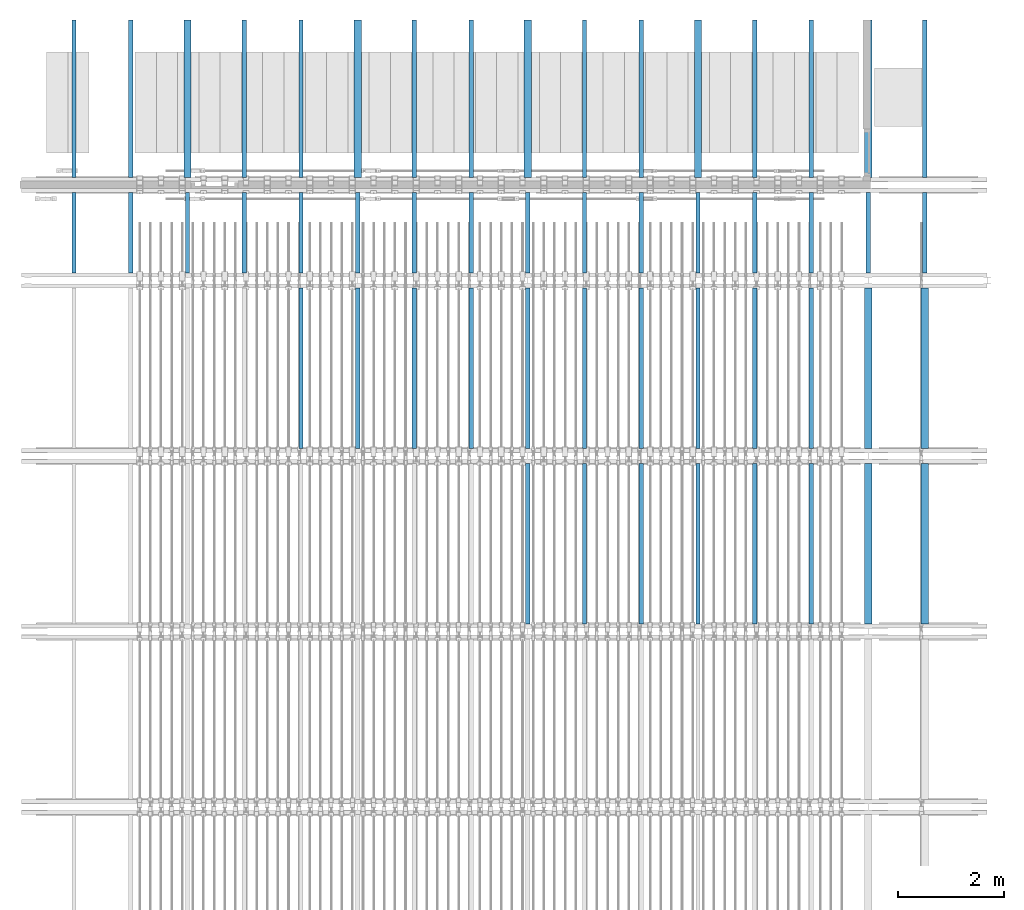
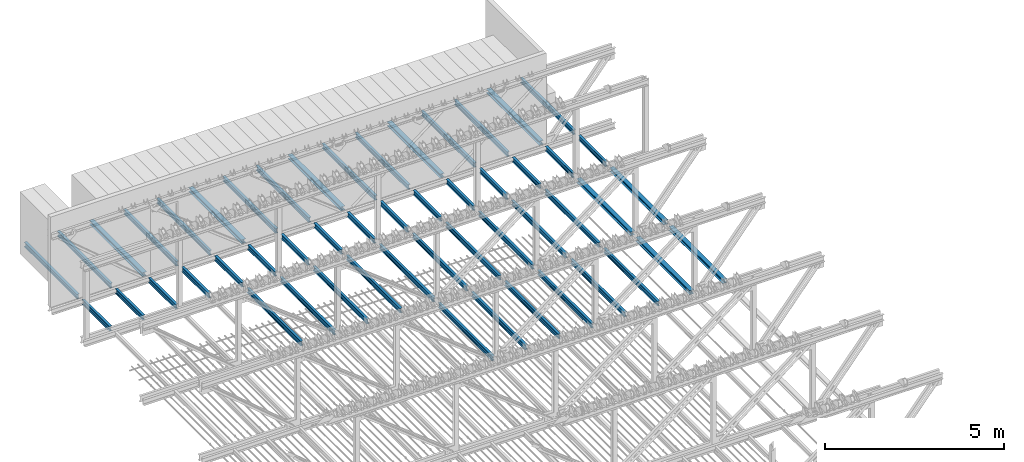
# One storey, part 3 of 8: 52 beams.
"""IFC2X3 building model written with IfcOpenShell, lengths in millimetres."""

from ifc_helpers import new_model, entity, si_unit, converted_unit, direction, frame, frame_2d, origin, place, context, subcontext, project, spatial, i_section, extrude, material, type_object, element, save


model = new_model("IFC2X3")

# Units and contexts
model_context = context("Model", 3, precision=0.01, world=origin(), true_north=direction((6.123233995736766e-17, 1.0)))
body_context = subcontext(model_context, "Body", "Model", "MODEL_VIEW")
ifc_project = project(units=[si_unit("LENGTHUNIT", "METRE", prefix="MILLI"), si_unit("AREAUNIT", "SQUARE_METRE"), converted_unit("PLANEANGLEUNIT", "DEGREE", entity("IfcPlaneAngleMeasure", 0.017453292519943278), si_unit("PLANEANGLEUNIT", "RADIAN"), dimensions=[0, 0, 0, 0, 0, 0, 0])], contexts=[model_context])

# Site, building, storey
site_placement = place(None, origin())
site = spatial("IfcSite", under=ifc_project, at=site_placement, Name="Default", CompositionType="ELEMENT")
building_placement = place(site_placement, origin())
building = spatial("IfcBuilding", under=site, at=building_placement, CompositionType="ELEMENT")
storey_placement = place(building_placement, frame((0.0, 0.0, 30550.0)))
storey = spatial("IfcBuildingStorey", under=building, at=storey_placement, Name="Rollenzolder", CompositionType="ELEMENT", Elevation=30550.000000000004)

# Beams
ifc_material = material(Name="Staal PBTA")
beam_type_1 = type_object("IfcBeamType", Name="H-Balk:HEA140", PredefinedType="BEAM")
beam_1_placement = place(storey_placement, frame((9736.744931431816, 36371.16790690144, -30.0), z_axis=(0.0, 0.0, 1.0), x_axis=(0.0, 1.0, 0.0)))
element("IfcBeam", 1, at=beam_1_placement, inside=storey, type_object=beam_type_1, material=ifc_material, Name="H-Balk:HEA140", ObjectType="H-Balk:HEA140", context=body_context, shape_type="SweptSolid", body=[
    extrude(i_section(OverallWidth=140.00000000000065, OverallDepth=132.99999999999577, WebThickness=5.499999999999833, FlangeThickness=8.499999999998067, FilletRadius=12.000000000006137, at=frame_2d((0.0, 0.0), x_axis=(0.0, 1.0))), frame((0.0, 0.0, -66.5000000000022), z_axis=(1.0, 0.0, 0.0), x_axis=(0.0, 0.0, -1.0)), (0.0, 0.0, 1.0), 2960.0000000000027),
])
beam_2_placement = place(storey_placement, frame((12936.744931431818, 36371.167906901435, -30.0), z_axis=(0.0, 0.0, 1.0), x_axis=(0.0, 1.0, 0.0)))
element("IfcBeam", 2, at=beam_2_placement, inside=storey, type_object=beam_type_1, material=ifc_material, Name="H-Balk:HEA140", ObjectType="H-Balk:HEA140", context=body_context, shape_type="SweptSolid", body=[
    extrude(i_section(OverallWidth=139.9999999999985, OverallDepth=132.99999999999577, WebThickness=5.500000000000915, FlangeThickness=8.499999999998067, FilletRadius=12.000000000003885, at=frame_2d((0.0, 1.0800249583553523e-12), x_axis=(0.0, 1.0))), frame((0.0, 0.0, -66.5000000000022), z_axis=(1.0, 0.0, 0.0), x_axis=(0.0, 0.0, -1.0)), (0.0, 0.0, 1.0), 2960.0000000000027),
])
for number, where, z_axis, x_axis, name in (
    (3, (16136.744931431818, 36371.16790690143, -30.0), (0.0, 0.0, 1.0), (0.0, 1.0, 0.0), "H-Balk:HEA140"),
    (4, (19336.74493143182, 36371.16790690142, -30.0), (0.0, 0.0, 1.0), (0.0, 1.0, 0.0), "H-Balk:HEA140"),
):
    element("IfcBeam", number, at=place(storey_placement, frame(where, z_axis=z_axis, x_axis=x_axis)), inside=storey, type_object=beam_type_1, material=ifc_material, Name=name, ObjectType="H-Balk:HEA140", context=body_context, shape_type="SweptSolid", body=[
        extrude(i_section(OverallWidth=139.9999999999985, OverallDepth=132.99999999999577, WebThickness=5.500000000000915, FlangeThickness=8.499999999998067, FilletRadius=12.000000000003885, at=frame_2d((0.0, -1.0800249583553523e-12), x_axis=(0.0, 1.0))), frame((0.0, 0.0, -66.5000000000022), z_axis=(1.0, 0.0, 0.0), x_axis=(0.0, 0.0, -1.0)), (0.0, 0.0, 1.0), 2960.0000000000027),
    ])
beam_3_placement = place(storey_placement, frame((22536.744931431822, 36371.167906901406, -30.0), z_axis=(0.0, 0.0, 1.0), x_axis=(0.0, 1.0, 0.0)))
element("IfcBeam", 5, at=beam_3_placement, inside=storey, type_object=beam_type_1, material=ifc_material, Name="H-Balk:HEA140", ObjectType="H-Balk:HEA140", context=body_context, shape_type="SweptSolid", body=[
    extrude(i_section(OverallWidth=140.0000000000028, OverallDepth=132.99999999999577, WebThickness=5.4999999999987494, FlangeThickness=8.499999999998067, FilletRadius=12.000000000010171, at=frame_2d((0.0, -2.1600499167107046e-12), x_axis=(0.0, 1.0))), frame((0.0, 0.0, -66.5000000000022), z_axis=(1.0, 0.0, 0.0), x_axis=(0.0, 0.0, -1.0)), (0.0, 0.0, 1.0), 2960.0000000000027),
])
beam_4_placement = place(storey_placement, frame((23603.41159809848, 31272.667906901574, -30.0), z_axis=(0.0, 0.0, 1.0), x_axis=(0.0, 1.0, 0.0)))
element("IfcBeam", 6, at=beam_4_placement, inside=storey, type_object=beam_type_1, material=ifc_material, Name="H-Balk:HEA140", ObjectType="H-Balk:HEA140", context=body_context, shape_type="SweptSolid", body=[
    extrude(i_section(OverallWidth=140.0000000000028, OverallDepth=133.00000000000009, WebThickness=5.4999999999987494, FlangeThickness=8.5000000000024, FilletRadius=12.000000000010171, at=frame_2d((2.1600499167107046e-12, -2.1600499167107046e-12), x_axis=(0.0, 1.0))), frame((0.0, 0.0, -66.5000000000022), z_axis=(1.0, 0.0, 0.0), x_axis=(0.0, 0.0, -1.0)), (0.0, 0.0, 1.0), 3016.9999999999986),
])
beam_5_placement = place(storey_placement, frame((23603.411598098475, 27972.667906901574, -30.0), z_axis=(0.0, 0.0, 1.0), x_axis=(0.0, 1.0, 0.0)))
element("IfcBeam", 7, at=beam_5_placement, inside=storey, type_object=beam_type_1, material=ifc_material, Name="H-Balk:HEA140", ObjectType="H-Balk:HEA140", context=body_context, shape_type="SweptSolid", body=[
    extrude(i_section(OverallWidth=140.0000000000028, OverallDepth=133.00000000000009, WebThickness=5.4999999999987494, FlangeThickness=8.5000000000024, FilletRadius=12.000000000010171, at=frame_2d((2.1600499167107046e-12, 2.1600499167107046e-12), x_axis=(0.0, 1.0))), frame((0.0, 0.0, -66.5000000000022), z_axis=(1.0, 0.0, 0.0), x_axis=(0.0, 0.0, -1.0)), (0.0, 0.0, 1.0), 3016.9999999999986),
])
beam_6_placement = place(storey_placement, frame((22536.74493143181, 31272.667906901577, -30.0), z_axis=(0.0, 0.0, 1.0), x_axis=(0.0, 1.0, 0.0)))
element("IfcBeam", 8, at=beam_6_placement, inside=storey, type_object=beam_type_1, material=ifc_material, Name="H-Balk:HEA140", ObjectType="H-Balk:HEA140", context=body_context, shape_type="SweptSolid", body=[
    extrude(i_section(OverallWidth=140.0000000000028, OverallDepth=133.00000000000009, WebThickness=5.4999999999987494, FlangeThickness=8.5000000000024, FilletRadius=12.000000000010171, at=frame_2d((2.1600499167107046e-12, -6.494360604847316e-12), x_axis=(0.0, 1.0))), frame((0.0, 0.0, -66.5000000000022), z_axis=(1.0, 0.0, 0.0), x_axis=(0.0, 0.0, -1.0)), (0.0, 0.0, 1.0), 3016.9999999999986),
])
beam_7_placement = place(storey_placement, frame((22536.744931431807, 27972.667906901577, -30.0), z_axis=(0.0, 0.0, 1.0), x_axis=(0.0, 1.0, 0.0)))
element("IfcBeam", 9, at=beam_7_placement, inside=storey, type_object=beam_type_1, material=ifc_material, Name="H-Balk:HEA140", ObjectType="H-Balk:HEA140", context=body_context, shape_type="SweptSolid", body=[
    extrude(i_section(OverallWidth=140.0000000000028, OverallDepth=133.00000000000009, WebThickness=5.4999999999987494, FlangeThickness=8.5000000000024, FilletRadius=12.000000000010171, at=frame_2d((2.1600499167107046e-12, -2.1600499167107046e-12), x_axis=(0.0, 1.0))), frame((0.0, 0.0, -66.5000000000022), z_axis=(1.0, 0.0, 0.0), x_axis=(0.0, 0.0, -1.0)), (0.0, 0.0, 1.0), 3016.9999999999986),
])
beam_type_2 = type_object("IfcBeamType", Name="IPE-Balk:IPE160", PredefinedType="BEAM")
beam_8_placement = place(storey_placement, frame((10803.411598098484, 36372.667906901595, -30.0), z_axis=(0.0, 0.0, 1.0), x_axis=(0.0, 1.0, 0.0)))
element("IfcBeam", 10, at=beam_8_placement, inside=storey, type_object=beam_type_2, material=ifc_material, Name="IPE-Balk:IPE160", ObjectType="IPE-Balk:IPE160", context=body_context, shape_type="SweptSolid", body=[
    extrude(i_section(OverallWidth=82.00000000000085, OverallDepth=159.9999999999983, WebThickness=5.0000000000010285, FlangeThickness=7.399999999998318, FilletRadius=8.999999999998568, at=frame_2d((-4.32720526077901e-12, 1.0835776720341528e-12), x_axis=(0.0, 1.0))), frame((0.2499999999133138, 0.0, -80.0), z_axis=(1.0, 0.0, 0.0), x_axis=(0.0, 0.0, -1.0)), (0.0, 0.0, 1.0), 2957.999999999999),
])
beam_9_placement = place(storey_placement, frame((11870.07826476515, 36372.66790690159, -30.0), z_axis=(0.0, 0.0, 1.0), x_axis=(0.0, 1.0, 0.0)))
element("IfcBeam", 11, at=beam_9_placement, inside=storey, type_object=beam_type_2, material=ifc_material, Name="IPE-Balk:IPE160", ObjectType="IPE-Balk:IPE160", context=body_context, shape_type="SweptSolid", body=[
    extrude(i_section(OverallWidth=82.00000000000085, OverallDepth=159.9999999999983, WebThickness=5.0000000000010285, FlangeThickness=7.399999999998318, FilletRadius=8.999999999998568, at=frame_2d((-4.32720526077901e-12, 1.0835776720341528e-12), x_axis=(0.0, 1.0))), frame((0.24999999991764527, 0.0, -80.0), z_axis=(1.0, 0.0, 0.0), x_axis=(0.0, 0.0, -1.0)), (0.0, 0.0, 1.0), 2957.999999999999),
])
for number, where, z_axis, x_axis, name in (
    (12, (10803.411598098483, 34572.6679069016, -30.0), (0.0, 0.0, 1.0), (0.0, 1.0, 0.0), "IPE-Balk:IPE160"),
    (13, (11870.078264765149, 34572.6679069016, -30.0), (0.0, 0.0, 1.0), (0.0, 1.0, 0.0), "IPE-Balk:IPE160"),
):
    element("IfcBeam", number, at=place(storey_placement, frame(where, z_axis=z_axis, x_axis=x_axis)), inside=storey, type_object=beam_type_2, material=ifc_material, Name=name, ObjectType="IPE-Balk:IPE160", context=body_context, shape_type="SweptSolid", body=[
        extrude(i_section(OverallWidth=82.00000000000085, OverallDepth=159.9999999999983, WebThickness=5.0000000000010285, FlangeThickness=7.399999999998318, FilletRadius=8.999999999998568, at=frame_2d((-4.32720526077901e-12, -1.0835776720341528e-12), x_axis=(0.0, 1.0))), frame((0.0, 0.0, -80.0), z_axis=(1.0, 0.0, 0.0), x_axis=(0.0, 0.0, -1.0)), (0.0, 0.0, 1.0), 1517.0000000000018),
    ])
beam_10_placement = place(storey_placement, frame((11870.078264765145, 31272.667906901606, -30.0), z_axis=(0.0, 0.0, 1.0), x_axis=(0.0, 1.0, 0.0)))
element("IfcBeam", 14, at=beam_10_placement, inside=storey, type_object=beam_type_2, material=ifc_material, Name="IPE-Balk:IPE160", ObjectType="IPE-Balk:IPE160", context=body_context, shape_type="SweptSolid", body=[
    extrude(i_section(OverallWidth=82.00000000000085, OverallDepth=159.9999999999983, WebThickness=5.0000000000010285, FlangeThickness=7.399999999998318, FilletRadius=8.999999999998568, at=frame_2d((-4.32720526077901e-12, -1.0835776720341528e-12), x_axis=(0.0, 1.0))), frame((0.0, 0.0, -80.0), z_axis=(1.0, 0.0, 0.0), x_axis=(0.0, 0.0, -1.0)), (0.0, 0.0, 1.0), 3017.0000000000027),
])
beam_11_placement = place(storey_placement, frame((14003.411598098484, 36372.66790690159, -30.0), z_axis=(0.0, 0.0, 1.0), x_axis=(0.0, 1.0, 0.0)))
element("IfcBeam", 15, at=beam_11_placement, inside=storey, type_object=beam_type_2, material=ifc_material, Name="IPE-Balk:IPE160", ObjectType="IPE-Balk:IPE160", context=body_context, shape_type="SweptSolid", body=[
    extrude(i_section(OverallWidth=82.00000000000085, OverallDepth=159.9999999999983, WebThickness=5.0000000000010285, FlangeThickness=7.399999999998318, FilletRadius=8.999999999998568, at=frame_2d((-4.32720526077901e-12, -1.0835776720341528e-12), x_axis=(0.0, 1.0))), frame((0.24999999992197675, 0.0, -80.0), z_axis=(1.0, 0.0, 0.0), x_axis=(0.0, 0.0, -1.0)), (0.0, 0.0, 1.0), 2957.999999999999),
])
beam_12_placement = place(storey_placement, frame((15070.07826476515, 36372.66790690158, -30.0), z_axis=(0.0, 0.0, 1.0), x_axis=(0.0, 1.0, 0.0)))
element("IfcBeam", 16, at=beam_12_placement, inside=storey, type_object=beam_type_2, material=ifc_material, Name="IPE-Balk:IPE160", ObjectType="IPE-Balk:IPE160", context=body_context, shape_type="SweptSolid", body=[
    extrude(i_section(OverallWidth=82.00000000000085, OverallDepth=159.9999999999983, WebThickness=5.0000000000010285, FlangeThickness=7.399999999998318, FilletRadius=8.999999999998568, at=frame_2d((-4.32720526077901e-12, -1.0835776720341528e-12), x_axis=(0.0, 1.0))), frame((0.2499999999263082, 0.0, -80.0), z_axis=(1.0, 0.0, 0.0), x_axis=(0.0, 0.0, -1.0)), (0.0, 0.0, 1.0), 2957.999999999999),
])
for number, where, z_axis, x_axis, name in (
    (17, (14003.411598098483, 34572.667906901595, -30.0), (0.0, 0.0, 1.0), (0.0, 1.0, 0.0), "IPE-Balk:IPE160"),
    (18, (15070.078264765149, 34572.667906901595, -30.0), (0.0, 0.0, 1.0), (0.0, 1.0, 0.0), "IPE-Balk:IPE160"),
):
    element("IfcBeam", number, at=place(storey_placement, frame(where, z_axis=z_axis, x_axis=x_axis)), inside=storey, type_object=beam_type_2, material=ifc_material, Name=name, ObjectType="IPE-Balk:IPE160", context=body_context, shape_type="SweptSolid", body=[
        extrude(i_section(OverallWidth=82.00000000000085, OverallDepth=159.9999999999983, WebThickness=5.0000000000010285, FlangeThickness=7.399999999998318, FilletRadius=8.999999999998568, at=frame_2d((-4.32720526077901e-12, -1.0835776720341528e-12), x_axis=(0.0, 1.0))), frame((0.0, 0.0, -80.0), z_axis=(1.0, 0.0, 0.0), x_axis=(0.0, 0.0, -1.0)), (0.0, 0.0, 1.0), 1517.0000000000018),
    ])
beam_13_placement = place(storey_placement, frame((14003.411598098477, 31272.6679069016, -30.0), z_axis=(0.0, 0.0, 1.0), x_axis=(0.0, 1.0, 0.0)))
element("IfcBeam", 19, at=beam_13_placement, inside=storey, type_object=beam_type_2, material=ifc_material, Name="IPE-Balk:IPE160", ObjectType="IPE-Balk:IPE160", context=body_context, shape_type="SweptSolid", body=[
    extrude(i_section(OverallWidth=82.00000000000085, OverallDepth=159.9999999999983, WebThickness=5.0000000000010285, FlangeThickness=7.399999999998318, FilletRadius=8.999999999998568, at=frame_2d((-4.32720526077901e-12, -1.0835776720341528e-12), x_axis=(0.0, 1.0))), frame((0.0, 0.0, -80.0), z_axis=(1.0, 0.0, 0.0), x_axis=(0.0, 0.0, -1.0)), (0.0, 0.0, 1.0), 3016.9999999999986),
])
beam_14_placement = place(storey_placement, frame((15070.078264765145, 31272.6679069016, -30.0), z_axis=(0.0, 0.0, 1.0), x_axis=(0.0, 1.0, 0.0)))
element("IfcBeam", 20, at=beam_14_placement, inside=storey, type_object=beam_type_2, material=ifc_material, Name="IPE-Balk:IPE160", ObjectType="IPE-Balk:IPE160", context=body_context, shape_type="SweptSolid", body=[
    extrude(i_section(OverallWidth=82.00000000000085, OverallDepth=159.9999999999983, WebThickness=5.0000000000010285, FlangeThickness=7.399999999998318, FilletRadius=8.999999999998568, at=frame_2d((-4.32720526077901e-12, -1.0835776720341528e-12), x_axis=(0.0, 1.0))), frame((0.0, 0.0, -80.0), z_axis=(1.0, 0.0, 0.0), x_axis=(0.0, 0.0, -1.0)), (0.0, 0.0, 1.0), 3017.0000000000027),
])
beam_15_placement = place(storey_placement, frame((17203.411598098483, 36372.66790690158, -30.0), z_axis=(0.0, 0.0, 1.0), x_axis=(0.0, 1.0, 0.0)))
element("IfcBeam", 21, at=beam_15_placement, inside=storey, type_object=beam_type_2, material=ifc_material, Name="IPE-Balk:IPE160", ObjectType="IPE-Balk:IPE160", context=body_context, shape_type="SweptSolid", body=[
    extrude(i_section(OverallWidth=82.00000000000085, OverallDepth=159.9999999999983, WebThickness=5.0000000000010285, FlangeThickness=7.399999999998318, FilletRadius=8.999999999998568, at=frame_2d((-4.32720526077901e-12, -1.0835776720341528e-12), x_axis=(0.0, 1.0))), frame((0.24999999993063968, 0.0, -80.0), z_axis=(1.0, 0.0, 0.0), x_axis=(0.0, 0.0, -1.0)), (0.0, 0.0, 1.0), 2957.999999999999),
])
beam_16_placement = place(storey_placement, frame((18270.07826476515, 36372.66790690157, -30.0), z_axis=(0.0, 0.0, 1.0), x_axis=(0.0, 1.0, 0.0)))
element("IfcBeam", 22, at=beam_16_placement, inside=storey, type_object=beam_type_2, material=ifc_material, Name="IPE-Balk:IPE160", ObjectType="IPE-Balk:IPE160", context=body_context, shape_type="SweptSolid", body=[
    extrude(i_section(OverallWidth=82.00000000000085, OverallDepth=159.9999999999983, WebThickness=5.0000000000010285, FlangeThickness=7.399999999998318, FilletRadius=8.999999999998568, at=frame_2d((-4.32720526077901e-12, -1.0835776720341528e-12), x_axis=(0.0, 1.0))), frame((0.24999999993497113, 0.0, -80.0), z_axis=(1.0, 0.0, 0.0), x_axis=(0.0, 0.0, -1.0)), (0.0, 0.0, 1.0), 2957.999999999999),
])
for number, where, z_axis, x_axis, name in (
    (23, (17203.411598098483, 34572.66790690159, -30.0), (0.0, 0.0, 1.0), (0.0, 1.0, 0.0), "IPE-Balk:IPE160"),
    (24, (18270.07826476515, 34572.66790690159, -30.0), (0.0, 0.0, 1.0), (0.0, 1.0, 0.0), "IPE-Balk:IPE160"),
):
    element("IfcBeam", number, at=place(storey_placement, frame(where, z_axis=z_axis, x_axis=x_axis)), inside=storey, type_object=beam_type_2, material=ifc_material, Name=name, ObjectType="IPE-Balk:IPE160", context=body_context, shape_type="SweptSolid", body=[
        extrude(i_section(OverallWidth=82.00000000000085, OverallDepth=159.9999999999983, WebThickness=5.0000000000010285, FlangeThickness=7.399999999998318, FilletRadius=8.999999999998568, at=frame_2d((-4.32720526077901e-12, -1.0835776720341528e-12), x_axis=(0.0, 1.0))), frame((0.0, 0.0, -80.0), z_axis=(1.0, 0.0, 0.0), x_axis=(0.0, 0.0, -1.0)), (0.0, 0.0, 1.0), 1517.0000000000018),
    ])
beam_17_placement = place(storey_placement, frame((17203.41159809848, 31272.66790690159, -30.0), z_axis=(0.0, 0.0, 1.0), x_axis=(0.0, 1.0, 0.0)))
element("IfcBeam", 25, at=beam_17_placement, inside=storey, type_object=beam_type_2, material=ifc_material, Name="IPE-Balk:IPE160", ObjectType="IPE-Balk:IPE160", context=body_context, shape_type="SweptSolid", body=[
    extrude(i_section(OverallWidth=82.00000000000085, OverallDepth=159.9999999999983, WebThickness=5.0000000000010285, FlangeThickness=7.399999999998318, FilletRadius=8.999999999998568, at=frame_2d((-4.32720526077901e-12, -1.0835776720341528e-12), x_axis=(0.0, 1.0))), frame((0.0, 0.0, -80.0), z_axis=(1.0, 0.0, 0.0), x_axis=(0.0, 0.0, -1.0)), (0.0, 0.0, 1.0), 3016.9999999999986),
])
for number, where, z_axis, x_axis, name in (
    (26, (18270.078264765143, 31272.66790690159, -30.0), (0.0, 0.0, 1.0), (0.0, 1.0, 0.0), "IPE-Balk:IPE160"),
    (27, (17203.411598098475, 27972.66790690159, -30.0), (0.0, 0.0, 1.0), (0.0, 1.0, 0.0), "IPE-Balk:IPE160"),
    (28, (18270.07826476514, 27972.66790690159, -30.0), (0.0, 0.0, 1.0), (0.0, 1.0, 0.0), "IPE-Balk:IPE160"),
):
    element("IfcBeam", number, at=place(storey_placement, frame(where, z_axis=z_axis, x_axis=x_axis)), inside=storey, type_object=beam_type_2, material=ifc_material, Name=name, ObjectType="IPE-Balk:IPE160", context=body_context, shape_type="SweptSolid", body=[
        extrude(i_section(OverallWidth=82.00000000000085, OverallDepth=159.9999999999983, WebThickness=5.0000000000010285, FlangeThickness=7.399999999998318, FilletRadius=8.999999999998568, at=frame_2d((-4.32720526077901e-12, -1.0835776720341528e-12), x_axis=(0.0, 1.0))), frame((0.0, 0.0, -80.0), z_axis=(1.0, 0.0, 0.0), x_axis=(0.0, 0.0, -1.0)), (0.0, 0.0, 1.0), 3017.0000000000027),
    ])
beam_18_placement = place(storey_placement, frame((20403.411598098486, 36372.667906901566, -30.0), z_axis=(0.0, 0.0, 1.0), x_axis=(0.0, 1.0, 0.0)))
element("IfcBeam", 29, at=beam_18_placement, inside=storey, type_object=beam_type_2, material=ifc_material, Name="IPE-Balk:IPE160", ObjectType="IPE-Balk:IPE160", context=body_context, shape_type="SweptSolid", body=[
    extrude(i_section(OverallWidth=81.99999999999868, OverallDepth=159.9999999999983, WebThickness=4.999999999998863, FlangeThickness=7.399999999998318, FilletRadius=8.999999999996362, at=frame_2d((-4.32720526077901e-12, 0.0), x_axis=(0.0, 1.0))), frame((0.2499999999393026, 0.0, -80.0), z_axis=(1.0, 0.0, 0.0), x_axis=(0.0, 0.0, -1.0)), (0.0, 0.0, 1.0), 2957.999999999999),
])
beam_19_placement = place(storey_placement, frame((21470.078264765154, 36372.667906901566, -30.0), z_axis=(0.0, 0.0, 1.0), x_axis=(0.0, 1.0, 0.0)))
element("IfcBeam", 30, at=beam_19_placement, inside=storey, type_object=beam_type_2, material=ifc_material, Name="IPE-Balk:IPE160", ObjectType="IPE-Balk:IPE160", context=body_context, shape_type="SweptSolid", body=[
    extrude(i_section(OverallWidth=81.99999999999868, OverallDepth=159.9999999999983, WebThickness=4.999999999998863, FlangeThickness=7.399999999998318, FilletRadius=8.999999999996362, at=frame_2d((-4.32720526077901e-12, 4.330757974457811e-12), x_axis=(0.0, 1.0))), frame((0.24999999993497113, 0.0, -80.0), z_axis=(1.0, 0.0, 0.0), x_axis=(0.0, 0.0, -1.0)), (0.0, 0.0, 1.0), 2957.999999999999),
])
beam_20_placement = place(storey_placement, frame((20403.41159809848, 34572.66790690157, -30.0), z_axis=(0.0, 0.0, 1.0), x_axis=(0.0, 1.0, 0.0)))
element("IfcBeam", 31, at=beam_20_placement, inside=storey, type_object=beam_type_2, material=ifc_material, Name="IPE-Balk:IPE160", ObjectType="IPE-Balk:IPE160", context=body_context, shape_type="SweptSolid", body=[
    extrude(i_section(OverallWidth=81.99999999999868, OverallDepth=159.9999999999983, WebThickness=4.999999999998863, FlangeThickness=7.399999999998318, FilletRadius=8.999999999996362, at=frame_2d((-4.32720526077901e-12, 0.0), x_axis=(0.0, 1.0))), frame((0.0, 0.0, -80.0), z_axis=(1.0, 0.0, 0.0), x_axis=(0.0, 0.0, -1.0)), (0.0, 0.0, 1.0), 1517.0000000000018),
])
beam_21_placement = place(storey_placement, frame((21470.078264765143, 34572.66790690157, -30.0), z_axis=(0.0, 0.0, 1.0), x_axis=(0.0, 1.0, 0.0)))
element("IfcBeam", 32, at=beam_21_placement, inside=storey, type_object=beam_type_2, material=ifc_material, Name="IPE-Balk:IPE160", ObjectType="IPE-Balk:IPE160", context=body_context, shape_type="SweptSolid", body=[
    extrude(i_section(OverallWidth=81.99999999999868, OverallDepth=159.9999999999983, WebThickness=4.999999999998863, FlangeThickness=7.399999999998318, FilletRadius=8.999999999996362, at=frame_2d((-4.32720526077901e-12, 4.330757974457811e-12), x_axis=(0.0, 1.0))), frame((0.0, 0.0, -80.0), z_axis=(1.0, 0.0, 0.0), x_axis=(0.0, 0.0, -1.0)), (0.0, 0.0, 1.0), 1517.0000000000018),
])
beam_22_placement = place(storey_placement, frame((20403.41159809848, 31272.66790690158, -30.0), z_axis=(0.0, 0.0, 1.0), x_axis=(0.0, 1.0, 0.0)))
element("IfcBeam", 33, at=beam_22_placement, inside=storey, type_object=beam_type_2, material=ifc_material, Name="IPE-Balk:IPE160", ObjectType="IPE-Balk:IPE160", context=body_context, shape_type="SweptSolid", body=[
    extrude(i_section(OverallWidth=81.99999999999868, OverallDepth=159.9999999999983, WebThickness=4.999999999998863, FlangeThickness=7.399999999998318, FilletRadius=8.999999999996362, at=frame_2d((-4.32720526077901e-12, 0.0), x_axis=(0.0, 1.0))), frame((0.0, 0.0, -80.0), z_axis=(1.0, 0.0, 0.0), x_axis=(0.0, 0.0, -1.0)), (0.0, 0.0, 1.0), 3016.9999999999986),
])
beam_23_placement = place(storey_placement, frame((21470.078264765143, 31272.66790690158, -30.0), z_axis=(0.0, 0.0, 1.0), x_axis=(0.0, 1.0, 0.0)))
element("IfcBeam", 34, at=beam_23_placement, inside=storey, type_object=beam_type_2, material=ifc_material, Name="IPE-Balk:IPE160", ObjectType="IPE-Balk:IPE160", context=body_context, shape_type="SweptSolid", body=[
    extrude(i_section(OverallWidth=81.99999999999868, OverallDepth=159.9999999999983, WebThickness=4.999999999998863, FlangeThickness=7.399999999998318, FilletRadius=8.999999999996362, at=frame_2d((-4.32720526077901e-12, 4.330757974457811e-12), x_axis=(0.0, 1.0))), frame((0.0, 0.0, -80.0), z_axis=(1.0, 0.0, 0.0), x_axis=(0.0, 0.0, -1.0)), (0.0, 0.0, 1.0), 3017.0000000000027),
])
for number, where, z_axis, x_axis, name in (
    (35, (20403.411598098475, 27972.66790690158, -30.0), (0.0, 0.0, 1.0), (0.0, 1.0, 0.0), "IPE-Balk:IPE160"),
    (36, (21470.07826476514, 27972.66790690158, -30.0), (0.0, 0.0, 1.0), (0.0, 1.0, 0.0), "IPE-Balk:IPE160"),
):
    element("IfcBeam", number, at=place(storey_placement, frame(where, z_axis=z_axis, x_axis=x_axis)), inside=storey, type_object=beam_type_2, material=ifc_material, Name=name, ObjectType="IPE-Balk:IPE160", context=body_context, shape_type="SweptSolid", body=[
        extrude(i_section(OverallWidth=81.99999999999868, OverallDepth=159.9999999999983, WebThickness=4.999999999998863, FlangeThickness=7.399999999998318, FilletRadius=8.999999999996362, at=frame_2d((-4.32720526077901e-12, 0.0), x_axis=(0.0, 1.0))), frame((0.0, 0.0, -80.0), z_axis=(1.0, 0.0, 0.0), x_axis=(0.0, 0.0, -1.0)), (0.0, 0.0, 1.0), 3017.0000000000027),
    ])
beam_24_placement = place(storey_placement, frame((23603.411598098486, 36372.66790690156, -30.0), z_axis=(0.0, 0.0, 1.0), x_axis=(0.0, 1.0, 0.0)))
element("IfcBeam", 37, at=beam_24_placement, inside=storey, type_object=beam_type_2, material=ifc_material, Name="IPE-Balk:IPE160", ObjectType="IPE-Balk:IPE160", context=body_context, shape_type="SweptSolid", body=[
    extrude(i_section(OverallWidth=81.99999999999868, OverallDepth=159.9999999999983, WebThickness=4.999999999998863, FlangeThickness=7.399999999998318, FilletRadius=8.999999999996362, at=frame_2d((-4.32720526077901e-12, 4.330757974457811e-12), x_axis=(0.0, 1.0))), frame((0.2499999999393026, 0.0, -80.0), z_axis=(1.0, 0.0, 0.0), x_axis=(0.0, 0.0, -1.0)), (0.0, 0.0, 1.0), 2957.999999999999),
])
beam_25_placement = place(storey_placement, frame((23603.41159809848, 34572.667906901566, -30.0), z_axis=(0.0, 0.0, 1.0), x_axis=(0.0, 1.0, 0.0)))
element("IfcBeam", 38, at=beam_25_placement, inside=storey, type_object=beam_type_2, material=ifc_material, Name="IPE-Balk:IPE160", ObjectType="IPE-Balk:IPE160", context=body_context, shape_type="SweptSolid", body=[
    extrude(i_section(OverallWidth=81.99999999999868, OverallDepth=159.9999999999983, WebThickness=4.999999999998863, FlangeThickness=7.399999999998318, FilletRadius=8.999999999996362, at=frame_2d((-4.32720526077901e-12, 4.330757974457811e-12), x_axis=(0.0, 1.0))), frame((0.0, 0.0, -80.0), z_axis=(1.0, 0.0, 0.0), x_axis=(0.0, 0.0, -1.0)), (0.0, 0.0, 1.0), 1517.0000000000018),
])
beam_26_placement = place(storey_placement, frame((7603.411598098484, 36372.6679069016, -30.0), z_axis=(0.0, 0.0, 1.0), x_axis=(0.0, 1.0, 0.0)))
element("IfcBeam", 39, at=beam_26_placement, inside=storey, type_object=beam_type_2, material=ifc_material, Name="IPE-Balk:IPE160", ObjectType="IPE-Balk:IPE160", context=body_context, shape_type="SweptSolid", body=[
    extrude(i_section(OverallWidth=81.99999999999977, OverallDepth=159.9999999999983, WebThickness=4.999999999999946, FlangeThickness=7.399999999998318, FilletRadius=8.999999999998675, at=frame_2d((-4.32720526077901e-12, 2.7071678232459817e-12), x_axis=(0.0, 1.0))), frame((0.24999999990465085, 0.0, -80.0), z_axis=(1.0, 0.0, 0.0), x_axis=(0.0, 0.0, -1.0)), (0.0, 0.0, 1.0), 2957.999999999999),
])
beam_27_placement = place(storey_placement, frame((8670.078264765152, 36372.6679069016, -30.0), z_axis=(0.0, 0.0, 1.0), x_axis=(0.0, 1.0, 0.0)))
element("IfcBeam", 40, at=beam_27_placement, inside=storey, type_object=beam_type_2, material=ifc_material, Name="IPE-Balk:IPE160", ObjectType="IPE-Balk:IPE160", context=body_context, shape_type="SweptSolid", body=[
    extrude(i_section(OverallWidth=81.99999999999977, OverallDepth=159.9999999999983, WebThickness=4.999999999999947, FlangeThickness=7.399999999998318, FilletRadius=8.999999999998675, at=frame_2d((-4.32720526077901e-12, 3.7907454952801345e-12), x_axis=(0.0, 1.0))), frame((0.24999999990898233, 0.0, -80.0), z_axis=(1.0, 0.0, 0.0), x_axis=(0.0, 0.0, -1.0)), (0.0, 0.0, 1.0), 2957.999999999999),
])
for number, where, z_axis, x_axis, name in (
    (41, (7603.4115980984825, 34572.66790690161, -30.0), (0.0, 0.0, 1.0), (0.0, 1.0, 0.0), "IPE-Balk:IPE160"),
    (42, (8670.078264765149, 34572.66790690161, -30.0), (0.0, 0.0, 1.0), (0.0, 1.0, 0.0), "IPE-Balk:IPE160"),
):
    element("IfcBeam", number, at=place(storey_placement, frame(where, z_axis=z_axis, x_axis=x_axis)), inside=storey, type_object=beam_type_2, material=ifc_material, Name=name, ObjectType="IPE-Balk:IPE160", context=body_context, shape_type="SweptSolid", body=[
        extrude(i_section(OverallWidth=82.00000000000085, OverallDepth=159.9999999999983, WebThickness=4.999999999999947, FlangeThickness=7.399999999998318, FilletRadius=8.999999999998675, at=frame_2d((-4.32720526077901e-12, 1.623590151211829e-12), x_axis=(0.0, 1.0))), frame((0.0, 0.0, -80.0), z_axis=(1.0, 0.0, 0.0), x_axis=(0.0, 0.0, -1.0)), (0.0, 0.0, 1.0), 1517.0000000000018),
    ])
for number, where, z_axis, x_axis, name in (
    (43, (12936.744931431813, 34572.667906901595, -30.0), (0.0, 0.0, 1.0), (0.0, 1.0, 0.0), "IPE-Balk:IPE160"),
    (44, (16136.744931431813, 34572.66790690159, -30.0), (0.0, 0.0, 1.0), (0.0, 1.0, 0.0), "IPE-Balk:IPE160"),
    (45, (19336.744931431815, 34572.66790690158, -30.0), (0.0, 0.0, 1.0), (0.0, 1.0, 0.0), "IPE-Balk:IPE160"),
):
    element("IfcBeam", number, at=place(storey_placement, frame(where, z_axis=z_axis, x_axis=x_axis)), inside=storey, type_object=beam_type_2, material=ifc_material, Name=name, ObjectType="IPE-Balk:IPE160", context=body_context, shape_type="SweptSolid", body=[
        extrude(i_section(OverallWidth=82.00000000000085, OverallDepth=159.9999999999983, WebThickness=5.0000000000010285, FlangeThickness=7.399999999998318, FilletRadius=8.999999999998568, at=frame_2d((-4.32720526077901e-12, -1.0835776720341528e-12), x_axis=(0.0, 1.0))), frame((0.0, 0.0, -80.0), z_axis=(1.0, 0.0, 0.0), x_axis=(0.0, 0.0, -1.0)), (0.0, 0.0, 1.0), 1517.0000000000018),
    ])
beam_28_placement = place(storey_placement, frame((22536.74493143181, 34572.66790690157, -30.0), z_axis=(0.0, 0.0, 1.0), x_axis=(0.0, 1.0, 0.0)))
element("IfcBeam", 46, at=beam_28_placement, inside=storey, type_object=beam_type_2, material=ifc_material, Name="IPE-Balk:IPE160", ObjectType="IPE-Balk:IPE160", context=body_context, shape_type="SweptSolid", body=[
    extrude(i_section(OverallWidth=81.99999999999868, OverallDepth=159.9999999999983, WebThickness=4.999999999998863, FlangeThickness=7.399999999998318, FilletRadius=8.999999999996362, at=frame_2d((-4.32720526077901e-12, 0.0), x_axis=(0.0, 1.0))), frame((0.0, 0.0, -80.0), z_axis=(1.0, 0.0, 0.0), x_axis=(0.0, 0.0, -1.0)), (0.0, 0.0, 1.0), 1517.0000000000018),
])
beam_29_placement = place(storey_placement, frame((9736.744931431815, 34572.66790690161, -30.0), z_axis=(0.0, 0.0, 1.0), x_axis=(0.0, 1.0, 0.0)))
element("IfcBeam", 47, at=beam_29_placement, inside=storey, type_object=beam_type_2, material=ifc_material, Name="IPE-Balk:IPE160", ObjectType="IPE-Balk:IPE160", context=body_context, shape_type="SweptSolid", body=[
    extrude(i_section(OverallWidth=82.00000000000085, OverallDepth=159.9999999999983, WebThickness=4.999999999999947, FlangeThickness=7.399999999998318, FilletRadius=8.999999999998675, at=frame_2d((-4.32720526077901e-12, 1.623590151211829e-12), x_axis=(0.0, 1.0))), frame((0.0, 0.0, -80.0), z_axis=(1.0, 0.0, 0.0), x_axis=(0.0, 0.0, -1.0)), (0.0, 0.0, 1.0), 1517.0000000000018),
])
for number, where, z_axis, x_axis, name in (
    (48, (12936.744931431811, 31272.667906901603, -30.0), (0.0, 0.0, 1.0), (0.0, 1.0, 0.0), "IPE-Balk:IPE160"),
    (49, (16136.744931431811, 31272.667906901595, -30.0), (0.0, 0.0, 1.0), (0.0, 1.0, 0.0), "IPE-Balk:IPE160"),
    (50, (19336.74493143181, 31272.667906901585, -30.0), (0.0, 0.0, 1.0), (0.0, 1.0, 0.0), "IPE-Balk:IPE160"),
    (51, (16136.744931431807, 27972.667906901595, -30.0), (0.0, 0.0, 1.0), (0.0, 1.0, 0.0), "IPE-Balk:IPE160"),
):
    element("IfcBeam", number, at=place(storey_placement, frame(where, z_axis=z_axis, x_axis=x_axis)), inside=storey, type_object=beam_type_2, material=ifc_material, Name=name, ObjectType="IPE-Balk:IPE160", context=body_context, shape_type="SweptSolid", body=[
        extrude(i_section(OverallWidth=82.00000000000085, OverallDepth=159.9999999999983, WebThickness=5.0000000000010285, FlangeThickness=7.399999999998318, FilletRadius=8.999999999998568, at=frame_2d((-4.32720526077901e-12, -1.0835776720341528e-12), x_axis=(0.0, 1.0))), frame((0.0, 0.0, -80.0), z_axis=(1.0, 0.0, 0.0), x_axis=(0.0, 0.0, -1.0)), (0.0, 0.0, 1.0), 3017.0000000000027),
    ])
beam_30_placement = place(storey_placement, frame((19336.744931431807, 27972.667906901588, -30.0), z_axis=(0.0, 0.0, 1.0), x_axis=(0.0, 1.0, 0.0)))
element("IfcBeam", 52, at=beam_30_placement, inside=storey, type_object=beam_type_2, material=ifc_material, Name="IPE-Balk:IPE160", ObjectType="IPE-Balk:IPE160", context=body_context, shape_type="SweptSolid", body=[
    extrude(i_section(OverallWidth=82.00000000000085, OverallDepth=159.9999999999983, WebThickness=5.0000000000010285, FlangeThickness=7.399999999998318, FilletRadius=8.999999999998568, at=frame_2d((-4.32720526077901e-12, -3.247180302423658e-12), x_axis=(0.0, 1.0))), frame((0.0, 0.0, -80.0), z_axis=(1.0, 0.0, 0.0), x_axis=(0.0, 0.0, -1.0)), (0.0, 0.0, 1.0), 3017.0000000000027),
])

save(model, "model.ifc")
